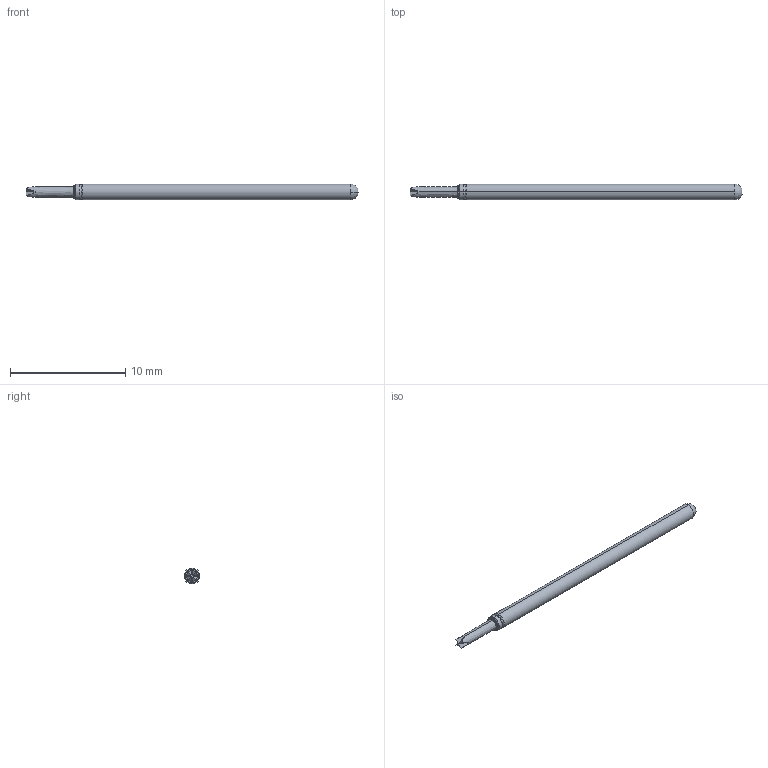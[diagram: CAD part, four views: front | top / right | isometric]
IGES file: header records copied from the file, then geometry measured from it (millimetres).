
Start section: SolidWorks IGES file using analytic representation for surfaces
Global section: file name: Z:\probe solid model mockups\Solidworks models\POGO-25 IGS files\POGO-25FL RECD.IGS; native system: SolidWorks 2006 by SolidWorks Corporation; preprocessor: SolidWorks 2006 by SolidWorks Corporation; author: tsakatani; date: 071214.084504; units: inch
Bounding box: 28.78 x 1.37 x 1.37 mm (x, y, z)
Surface area: 119.6 mm2 (no closed solid volume)
Topology: 0 solids, 0 shells, 26 faces, 170 edges, 170 vertices
Faces by surface type: bspline 14, revolution 12
